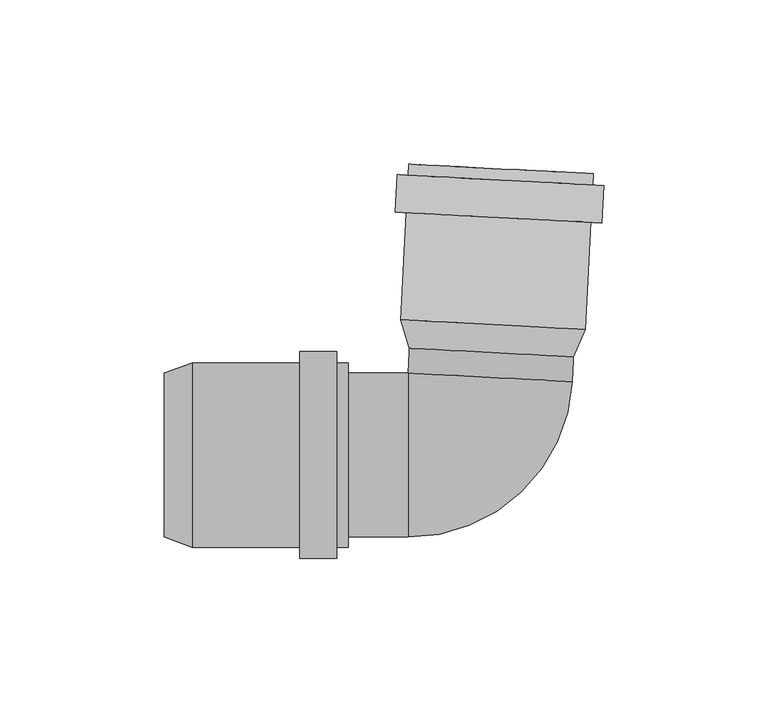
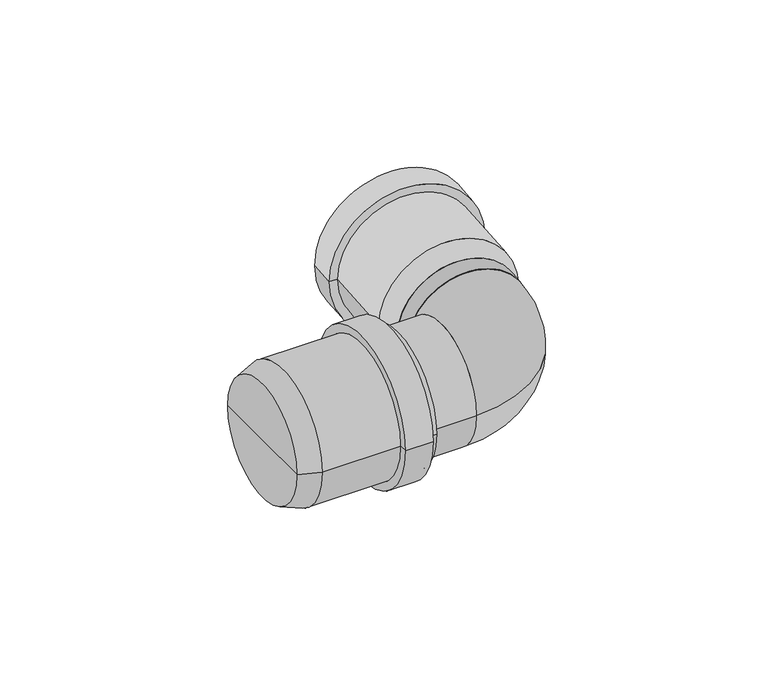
"""IFC4 building model written with IfcOpenShell, lengths in millimetres: pipe fitting geometry, pf_HTB : pf_HTB."""

from ifc_helpers import new_model, si_unit, point, frame, origin, origin_2d, place, context, project, spatial, polyline, circle_curve, ellipse_curve, trimmed, segment, composite_curve, outline, extrude, source, transform, mapped, element, save
from ifc_brep_helpers import plane_surface, cylinder_surface, revolved_surface, advanced_brep


def pipe_fitting_5d18f4c1(model_context):
    return source(origin(), model_context, "Body", "SolidModel", [
        advanced_brep(
        [(26.6038538, 29.9487055, 0.0), (-23.3276229, 32.5655033, 0.0), (-25.9785189, 41.2160959, 0.0), (30.144461, 38.2748151, 0.0), (1.6381154, 31.2571044, 0.0), (32.6304189, 85.709718, 0.0), (-23.4925609, 88.6509988, 0.0), (-20.3968094, 88.4887573, 0.0), (29.5346673, 85.8719595, 0.0), (32.4524767, 82.3143776, 0.0), (-23.6705032, 85.2556583, 0.0), (35.8478171, 82.1364353, 0.0), (-27.0658436, 85.4336006, 0.0), (35.2511872, 70.7520586, 0.0), (-27.6624735, 74.0492239, 0.0), (31.8558468, 70.9300009, 0.0), (-24.2671331, 73.8712816, 0.0), (27.0487094, 38.4370566, 0.0), (-22.8827673, 41.0538544, 0.0), (2.0829711, 39.7454555, 0.0)],
        [
            (0, 1, circle_curve(frame((1.6381154, 31.2571044, 0.0), z_axis=(0.05233595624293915, 0.9986295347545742, 0.0), x_axis=(-0.9986295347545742, 0.05233595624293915, 0.0)), 25.0)),
            (1, 2),
            (2, 3, circle_curve(frame((2.0829711, 39.7454555, 0.0), z_axis=(-0.05233595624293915, -0.9986295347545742, 0.0), x_axis=(-0.9986295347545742, 0.05233595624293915, 0.0)), 28.1)),
            (3, 0),
            (1, 0, circle_curve(frame((1.6381154, 31.2571044, 0.0), z_axis=(0.05233595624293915, 0.9986295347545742, 0.0), x_axis=(-0.9986295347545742, 0.05233595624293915, 0.0)), 25.0)),
            (3, 2, circle_curve(frame((2.0829711, 39.7454555, 0.0), z_axis=(-0.05233595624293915, -0.9986295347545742, 0.0), x_axis=(-0.9986295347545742, 0.05233595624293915, 0.0)), 28.1)),
            (4, 1),
            (0, 4),
            (5, 6, circle_curve(frame((4.568929, 87.1803584, 0.0), z_axis=(0.05233595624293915, 0.9986295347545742, 0.0), x_axis=(-0.9986295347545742, 0.05233595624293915, 0.0)), 28.1)),
            (6, 7),
            (7, 8, circle_curve(frame((4.568929, 87.1803584, 0.0), z_axis=(-0.05233595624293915, -0.9986295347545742, 0.0), x_axis=(-0.9986295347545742, 0.05233595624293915, 0.0)), 25.0)),
            (8, 5),
            (6, 5, circle_curve(frame((4.568929, 87.1803584, 0.0), z_axis=(0.05233595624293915, 0.9986295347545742, 0.0), x_axis=(-0.9986295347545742, 0.05233595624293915, 0.0)), 28.1)),
            (8, 7, circle_curve(frame((4.568929, 87.1803584, 0.0), z_axis=(-0.05233595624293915, -0.9986295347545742, 0.0), x_axis=(-0.9986295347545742, 0.05233595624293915, 0.0)), 25.0)),
            (9, 10, circle_curve(frame((4.3909867, 83.785018, 0.0), z_axis=(0.05233595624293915, 0.9986295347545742, 0.0), x_axis=(-0.9986295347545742, 0.05233595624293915, 0.0)), 28.1)),
            (10, 6),
            (5, 9),
            (10, 9, circle_curve(frame((4.3909867, 83.785018, 0.0), z_axis=(0.05233595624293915, 0.9986295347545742, 0.0), x_axis=(-0.9986295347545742, 0.05233595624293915, 0.0)), 28.1)),
            (11, 12, circle_curve(frame((4.3909867, 83.785018, 0.0), z_axis=(0.05233595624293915, 0.9986295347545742, 0.0), x_axis=(-0.9986295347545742, 0.05233595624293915, 0.0)), 31.5)),
            (12, 10),
            (9, 11),
            (12, 11, circle_curve(frame((4.3909867, 83.785018, 0.0), z_axis=(0.05233595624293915, 0.9986295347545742, 0.0), x_axis=(-0.9986295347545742, 0.05233595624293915, 0.0)), 31.5)),
            (13, 14, circle_curve(frame((3.7943568, 72.4006413, 0.0), z_axis=(0.05233595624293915, 0.9986295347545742, 0.0), x_axis=(-0.9986295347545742, 0.05233595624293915, 0.0)), 31.5)),
            (14, 12),
            (11, 13),
            (14, 13, circle_curve(frame((3.7943568, 72.4006413, 0.0), z_axis=(0.05233595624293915, 0.9986295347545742, 0.0), x_axis=(-0.9986295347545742, 0.05233595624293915, 0.0)), 31.5)),
            (15, 16, circle_curve(frame((3.7943568, 72.4006413, 0.0), z_axis=(0.05233595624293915, 0.9986295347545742, 0.0), x_axis=(-0.9986295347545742, 0.05233595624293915, 0.0)), 28.1)),
            (16, 14),
            (13, 15),
            (16, 15, circle_curve(frame((3.7943568, 72.4006413, 0.0), z_axis=(0.05233595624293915, 0.9986295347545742, 0.0), x_axis=(-0.9986295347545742, 0.05233595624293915, 0.0)), 28.1)),
            (2, 16),
            (15, 3),
            (17, 18, circle_curve(frame((2.0829711, 39.7454555, 0.0), z_axis=(0.05233595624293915, 0.9986295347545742, 0.0), x_axis=(-0.9986295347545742, 0.05233595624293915, 0.0)), 25.0)),
            (18, 19),
            (19, 17),
            (18, 17, circle_curve(frame((2.0829711, 39.7454555, 0.0), z_axis=(0.05233595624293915, 0.9986295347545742, 0.0), x_axis=(-0.9986295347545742, 0.05233595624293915, 0.0)), 25.0)),
            (7, 18),
            (17, 8),
        ],
        [
            revolved_surface(polyline([(-25.9785189, 41.2160959, 0.0), (-23.3276229, 32.5655033, 0.0)]), (1.6381154, 31.2571044, 0.0), (-0.05233595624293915, -0.9986295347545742, 0.0)),
            plane_surface(frame((1.6381154, 31.2571044, 0.0), z_axis=(-0.05233595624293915, -0.9986295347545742, 0.0), x_axis=(-0.9986295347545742, 0.05233595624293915, 0.0))),
            plane_surface(frame((4.568929, 87.1803584, 0.0), z_axis=(0.05233595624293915, 0.9986295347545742, 0.0), x_axis=(-0.9986295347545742, 0.05233595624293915, 0.0))),
            cylinder_surface(frame((1.6381154, 31.2571044, 0.0), z_axis=(-0.05233595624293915, -0.9986295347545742, 0.0), x_axis=(-0.9986295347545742, 0.05233595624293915, 0.0)), 28.1),
            plane_surface(frame((4.3909867, 83.785018, 0.0), z_axis=(0.05233595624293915, 0.9986295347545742, 0.0), x_axis=(-0.9986295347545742, 0.05233595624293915, 0.0))),
            cylinder_surface(frame((1.6381154, 31.2571044, 0.0), z_axis=(-0.05233595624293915, -0.9986295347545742, 0.0), x_axis=(-0.9986295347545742, 0.05233595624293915, 0.0)), 31.5),
            plane_surface(frame((3.7943568, 72.4006413, 0.0), z_axis=(-0.05233595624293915, -0.9986295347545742, 0.0), x_axis=(-0.9986295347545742, 0.05233595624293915, 0.0))),
            plane_surface(frame((2.0829711, 39.7454555, 0.0), z_axis=(0.05233595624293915, 0.9986295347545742, 0.0), x_axis=(-0.9986295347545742, 0.05233595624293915, 0.0))),
            revolved_surface(polyline([(-22.882767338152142, 41.05385440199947, 0.0), (-20.39680941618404, 88.48875731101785, 0.0)]), (1.6381154, 31.2571044, 0.0), (-0.05233595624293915, -0.9986295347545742, 0.0)),
        ],
        [
            (0, [[1, 2, 3, 4]]),
            (0, [[5, -4, 6, -2]]),
            (1, [[7, -1, 8]]),
            (1, [[-8, -5, -7]]),
            (2, [[9, 10, 11, 12]]),
            (2, [[13, -12, 14, -10]]),
            (3, [[15, 16, -9, 17]]),
            (3, [[18, -17, -13, -16]]),
            (4, [[19, 20, -15, 21]]),
            (4, [[22, -21, -18, -20]]),
            (5, [[23, 24, -19, 25]]),
            (5, [[26, -25, -22, -24]]),
            (6, [[27, 28, -23, 29]]),
            (6, [[30, -29, -26, -28]]),
            (3, [[-3, 31, -27, 32]]),
            (3, [[-6, -32, -30, -31]]),
            (7, [[33, 34, 35]]),
            (7, [[36, -35, -34]]),
            (8, [[-11, 37, -33, 38]]),
            (8, [[-14, -38, -36, -37]]),
        ],
    ),
        advanced_brep(
        [(-98.0, -25.0, 0.0), (-98.0, 25.0, 0.0), (-89.5, 28.1, 0.0), (-89.5, -28.1, 0.0), (-98.0, 0.0, 0.0), (-42.0, -28.1, 0.0), (-42.0, 28.1, 0.0), (-42.0, 25.0, 0.0), (-42.0, -25.0, 0.0), (-45.4, -28.1, 0.0), (-45.4, 28.1, 0.0), (-45.4, -31.5, 0.0), (-45.4, 31.5, 0.0), (-56.8, -31.5, 0.0), (-56.8, 31.5, 0.0), (-56.8, -28.1, 0.0), (-56.8, 28.1, 0.0), (-89.5, -25.0, 0.0), (-89.5, 25.0, 0.0), (-89.5, 0.0, 0.0)],
        [
            (0, 1, circle_curve(frame((-98.0, 0.0, 0.0), z_axis=(1.0, 0.0, 0.0), x_axis=(0.0, 1.0, 0.0)), 25.0)),
            (1, 2),
            (2, 3, circle_curve(frame((-89.5, 0.0, 0.0), z_axis=(-1.0, 0.0, 0.0), x_axis=(0.0, 1.0, 0.0)), 28.1)),
            (3, 0),
            (1, 0, circle_curve(frame((-98.0, 0.0, 0.0), z_axis=(1.0, 0.0, 0.0), x_axis=(0.0, 1.0, 0.0)), 25.0)),
            (3, 2, circle_curve(frame((-89.5, 0.0, 0.0), z_axis=(-1.0, 0.0, 0.0), x_axis=(0.0, 1.0, 0.0)), 28.1)),
            (4, 1),
            (0, 4),
            (5, 6, circle_curve(frame((-42.0, 0.0, 0.0), z_axis=(1.0, 0.0, 0.0), x_axis=(0.0, 1.0, 0.0)), 28.1)),
            (6, 7),
            (7, 8, circle_curve(frame((-42.0, 0.0, 0.0), z_axis=(-1.0, 0.0, 0.0), x_axis=(0.0, 1.0, 0.0)), 25.0)),
            (8, 5),
            (6, 5, circle_curve(frame((-42.0, 0.0, 0.0), z_axis=(1.0, 0.0, 0.0), x_axis=(0.0, 1.0, 0.0)), 28.1)),
            (8, 7, circle_curve(frame((-42.0, 0.0, 0.0), z_axis=(-1.0, 0.0, 0.0), x_axis=(0.0, 1.0, 0.0)), 25.0)),
            (9, 10, circle_curve(frame((-45.4, 0.0, 0.0), z_axis=(1.0, 0.0, 0.0), x_axis=(0.0, 1.0, 0.0)), 28.1)),
            (10, 6),
            (5, 9),
            (10, 9, circle_curve(frame((-45.4, 0.0, 0.0), z_axis=(1.0, 0.0, 0.0), x_axis=(0.0, 1.0, 0.0)), 28.1)),
            (11, 12, circle_curve(frame((-45.4, 0.0, 0.0), z_axis=(1.0, 0.0, 0.0), x_axis=(0.0, 1.0, 0.0)), 31.5)),
            (12, 10),
            (9, 11),
            (12, 11, circle_curve(frame((-45.4, 0.0, 0.0), z_axis=(1.0, 0.0, 0.0), x_axis=(0.0, 1.0, 0.0)), 31.5)),
            (13, 14, circle_curve(frame((-56.8, 0.0, 0.0), z_axis=(1.0, 0.0, 0.0), x_axis=(0.0, 1.0, 0.0)), 31.5)),
            (14, 12),
            (11, 13),
            (14, 13, circle_curve(frame((-56.8, 0.0, 0.0), z_axis=(1.0, 0.0, 0.0), x_axis=(0.0, 1.0, 0.0)), 31.5)),
            (15, 16, circle_curve(frame((-56.8, 0.0, 0.0), z_axis=(1.0, 0.0, 0.0), x_axis=(0.0, 1.0, 0.0)), 28.1)),
            (16, 14),
            (13, 15),
            (16, 15, circle_curve(frame((-56.8, 0.0, 0.0), z_axis=(1.0, 0.0, 0.0), x_axis=(0.0, 1.0, 0.0)), 28.1)),
            (2, 16),
            (15, 3),
            (17, 18, circle_curve(frame((-89.5, 0.0, 0.0), z_axis=(1.0, 0.0, 0.0), x_axis=(0.0, 1.0, 0.0)), 25.0)),
            (18, 19),
            (19, 17),
            (18, 17, circle_curve(frame((-89.5, 0.0, 0.0), z_axis=(1.0, 0.0, 0.0), x_axis=(0.0, 1.0, 0.0)), 25.0)),
            (7, 18),
            (17, 8),
        ],
        [
            revolved_surface(polyline([(-89.5, 28.1, 0.0), (-98.0, 25.0, 0.0)]), (-98.0, 0.0, 0.0), (-1.0, 0.0, 0.0)),
            plane_surface(frame((-98.0, 0.0, 0.0), z_axis=(-1.0, 0.0, 0.0), x_axis=(0.0, 1.0, 0.0))),
            plane_surface(frame((-42.0, 0.0, 0.0), z_axis=(1.0, 0.0, 0.0), x_axis=(0.0, 1.0, 0.0))),
            cylinder_surface(frame((-98.0, 0.0, 0.0), z_axis=(-1.0, 0.0, 0.0), x_axis=(0.0, 1.0, 0.0)), 28.1),
            plane_surface(frame((-45.4, 0.0, 0.0), z_axis=(1.0, 0.0, 0.0), x_axis=(0.0, 1.0, 0.0))),
            cylinder_surface(frame((-98.0, 0.0, 0.0), z_axis=(-1.0, 0.0, 0.0), x_axis=(0.0, 1.0, 0.0)), 31.5),
            plane_surface(frame((-56.8, 0.0, 0.0), z_axis=(-1.0, 0.0, 0.0), x_axis=(0.0, 1.0, 0.0))),
            plane_surface(frame((-89.5, 0.0, 0.0), z_axis=(1.0, 0.0, 0.0), x_axis=(0.0, 1.0, 0.0))),
            revolved_surface(polyline([(-89.5, 25.0, 0.0), (-42.0, 25.0, 0.0)]), (-98.0, 0.0, 0.0), (-1.0, 0.0, 0.0)),
        ],
        [
            (0, [[1, 2, 3, 4]]),
            (0, [[5, -4, 6, -2]]),
            (1, [[7, -1, 8]]),
            (1, [[-8, -5, -7]]),
            (2, [[9, 10, 11, 12]]),
            (2, [[13, -12, 14, -10]]),
            (3, [[15, 16, -9, 17]]),
            (3, [[18, -17, -13, -16]]),
            (4, [[19, 20, -15, 21]]),
            (4, [[22, -21, -18, -20]]),
            (5, [[23, 24, -19, 25]]),
            (5, [[26, -25, -22, -24]]),
            (6, [[27, 28, -23, 29]]),
            (6, [[30, -29, -26, -28]]),
            (3, [[-3, 31, -27, 32]]),
            (3, [[-6, -32, -30, -31]]),
            (7, [[33, 34, 35]]),
            (7, [[36, -35, -34]]),
            (8, [[-11, 37, -33, 38]]),
            (8, [[-14, -38, -36, -37]]),
        ],
    ),
        extrude(outline(composite_curve([segment(trimmed(circle_curve(origin_2d(), 25.0), [point((0.0, -25.0))], [point((0.0, 25.0))], False, "CARTESIAN"), True, "CONTINUOUS"), segment(trimmed(circle_curve(origin_2d(), 25.0), [point((0.0, 25.0))], [point((0.0, -25.0))], False, "CARTESIAN"), True, "CONTINUOUS")], self_intersect=False)), frame((1.2416242, 23.6916011, 0.0), z_axis=(0.05233595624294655, 0.9986295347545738, 0.0), x_axis=(0.0, 0.0, 1.0)), (0.0, 0.0, 1.0), 16.0758858),
        extrude(outline(composite_curve([segment(trimmed(circle_curve(origin_2d(), 25.0), [point((-25.0, 0.0))], [point((25.0, 0.0))], False, "CARTESIAN"), True, "CONTINUOUS"), segment(trimmed(circle_curve(origin_2d(), 25.0), [point((25.0, 0.0))], [point((-25.0, 0.0))], False, "CARTESIAN"), True, "CONTINUOUS")], self_intersect=False)), frame((-89.5, 0.0, 0.0), z_axis=(1.0, 0.0, 0.0), x_axis=(0.0, 1.0, 0.0)), (0.0, 0.0, 1.0), 65.7758858),
        advanced_brep(
        [(-23.7241142, -25.0, 0.0), (-23.7241142, 25.0, 0.0), (26.2073626, 22.3832022, 0.0)],
        [
            (0, 1, circle_curve(frame((-23.7241142, 0.0, 0.0), z_axis=(-1.0, 0.0, 0.0), x_axis=(0.0, 1.0, 0.0)), 25.0)),
            (1, 0, circle_curve(frame((-23.7241142, 0.0, 0.0), z_axis=(-1.0, 0.0, 0.0), x_axis=(0.0, 1.0, 0.0)), 25.0)),
            (2, 1, circle_curve(frame((1.2416242, 23.6916011, 0.0), z_axis=(0.05233595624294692, 0.9986295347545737, 0.0), x_axis=(-0.9986295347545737, 0.05233595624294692, 0.0)), 25.0)),
            (1, 2, circle_curve(frame((1.2416242, 23.6916011, 0.0), z_axis=(0.05233595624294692, 0.9986295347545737, 0.0), x_axis=(-0.9986295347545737, 0.05233595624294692, 0.0)), 25.0)),
            (2, 0, circle_curve(frame((-23.7241142, 25.0, 0.0), z_axis=(0.0, 0.0, -1.0), x_axis=(0.0, -1.0, 0.0)), 50.0)),
        ],
        [
            plane_surface(frame((-23.7241142, 25.0, -14.8), z_axis=(-1.0, 0.0, 0.0), x_axis=(0.0, -1.0, 0.0))),
            plane_surface(frame((-23.7241142, 25.0, -14.8), z_axis=(0.052335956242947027, 0.9986295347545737, 0.0), x_axis=(0.9986295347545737, -0.052335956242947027, 0.0))),
            revolved_surface(trimmed(ellipse_curve(frame((-23.7241142, 0.0, 0.0), z_axis=(1.0, 0.0, 0.0), x_axis=(0.0, 1.0, 0.0)), 25.0, 25.0), [point((-23.7241142, -25.0, 0.0))], [point((-23.7241142, 25.0, 0.0))], True, "CARTESIAN"), (-23.7241142, 25.0, -14.8), (0.0, 0.0, -1.0)),
            revolved_surface(trimmed(ellipse_curve(frame((-23.7241142, 0.0, 0.0), z_axis=(1.0, 0.0, 0.0), x_axis=(0.0, 1.0, 0.0)), 25.0, 25.0), [point((-23.7241142, 25.0, 0.0))], [point((-23.7241142, -25.0, 0.0))], True, "CARTESIAN"), (-23.7241142, 25.0, -14.8), (0.0, 0.0, -1.0)),
        ],
        [
            (0, [[1, 2]]),
            (1, [[3, 4]]),
            (2, [[5, -2, -3]]),
            (3, [[-1, -5, -4]]),
        ],
    ),
    ])


if __name__ == "__main__":
    model = new_model("IFC4")
    model_context = context("Model", 3, world=origin())
    ifc_project = project(units=[si_unit("LENGTHUNIT", "METRE", prefix="MILLI")], contexts=[model_context])
    site = spatial("IfcSite", under=ifc_project)
    building = spatial("IfcBuilding", under=site)
    placement = place(None, origin())
    pipe_fitting_shape = pipe_fitting_5d18f4c1(model_context)
    element("IfcPipeFitting", 1, ObjectType="pf_HTB : pf_HTB", at=placement, inside=building, context=model_context, shape_type="MappedRepresentation", body=[
        mapped(pipe_fitting_shape, transform((0.0, 0.0, 0.0), x_axis=(1.0, 0.0, 0.0), y_axis=(0.0, 1.0, 0.0), z_axis=(0.0, 0.0, 1.0))),
    ])
    save(model, "model.ifc")
